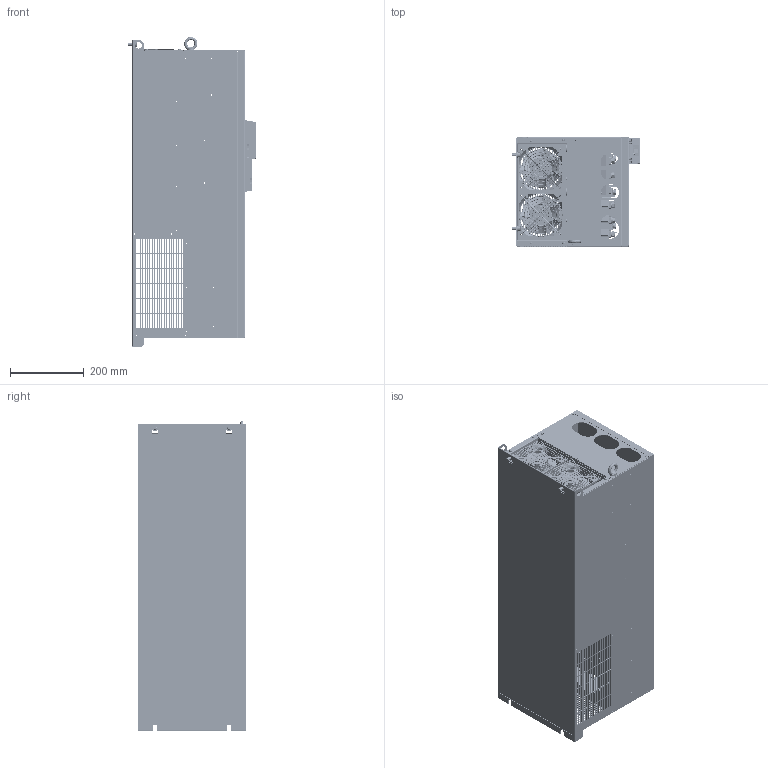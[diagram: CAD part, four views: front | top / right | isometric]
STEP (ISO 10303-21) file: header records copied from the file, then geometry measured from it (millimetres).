
FILE_DESCRIPTION (( 'STEP AP214' ), '1' );
FILE_NAME ('H120-90-132kw.STEP', '2023-06-19T10:43:52', ( '微软用户' ), ( '微软中国' ), 'SwSTEP 2.0', 'SolidWorks 2018', '' );
FILE_SCHEMA (( 'AUTOMOTIVE_DESIGN' ));
Length unit declared in the file: millimetre
Products named in the file (100): 藷裔爾璃2-0223-1; 电源驱动安装板组件-1; M4压铆螺母-0223-1_M4压铆螺母; 阨儒芛-耀撿-20190313-2019031920190328-0223-1; 輛盄諳-1; JNA360傷赽-1; 藷裔爾璃1-0223-1; 电源驱动安装板-1; 囀褲1-2019031920190328-0223-1_湮そ; 輛瑞啣-0223-1; H134-TP-10; 裔3-0223-1; JNA340傷赽-1; H120-90-132kw; 俋褲1-2019031920190328-0223-1; 假蚾啣-1; H134-TP-13; 裔1-0223-1; 132KW输入端子板-1; 0141-21xx-17pin-萇繚啣20190328-0223-1; M6X12腔蹟譫翐-1; H134-TP-21; M5x10蹟隊-0223-1; m8揤穩櫅譫; 按钮模具壳组件-模具-20190313-电路板20190328-0223-1; m4x12瓣謂揤穩蹟譫翐-0223-1; plain washer normal grade a_iso_Washer ISO 7089 - 8; M4X12的带弹垫盘头螺钉-0223-1; 输入端子板-132kw-0223-1; SPTB1-02-3.5-4-萇繚啣-2pin20190328-0223-1; m5揤穩櫅譫-1; socket head cap screw_iso_ISO 4762 M8 x 16 - 16N; m10x20蹟隊-0223-1; H134-TP-16蚾饜倎; GB9074_8-88_M3X6_ZI_1-耀撿-20190313-萇繚啣20190328-0223-1; m8揤穩櫅譫-1; 模具最新更改-卢工-2018031820190328-0223-1; m6x16蹟隊-0223-1; H134-TP-16; SPTB1-02-3.5-4-萇繚啣20190328-0223-1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
Assembly tree (211 placements, depth 5):
  H120-90-132kw
    眊极爾璃-0223-1
      翋眊极-1
        翋极啣-1
          M4压铆螺母-0223-1_M4压铆螺母  x10
          眊极01-0223-1
          崨盄鎢1-0223-1
        输入端子支持撑架-0223-1  x2
          输入端子支架1-0223-1
          M4压铆螺母_M4压铆螺母
        輛盄傷赽盓傅殤-0223-1  x2
          輛盄傷赽盓傅殤-0223-1
          M4压铆螺母_M4压铆螺母
        驱动板电源板安装片组件-1  x2
          驱动板安装板固定件-1
          M4压铆螺母_M4压铆螺母
      假蚾啣-1
        假蚾啣-0223-1
        m8揤穩櫅譫-1  x4
        m5揤穩櫅譫-1  x4
        m4x12瓣謂揤穩蹟譫翐-0223-1  x3
        M6X12腔蹟譫翐-1
        M4压铆螺母_M4压铆螺母  x12
      輛瑞啣-0223-1
      輛盄啣-1
        M4压铆螺母-0223-1_M4压铆螺母  x2
        輛盄諳-1
      結瑞え-0223-1
    瑞圮軞蚾饜极-0223-1
      瑞圮褲极-1
        M4压铆螺母-1_M4压铆螺母  x8
        m5揤穩櫅譫-0223-1  x3
        眊极02-0223-1
      瑞圮蚾饜极-0223-1  x2
        瑞圮120x120x38-0223-1
        瑞圮欶120x120x38-0223-1
    hcdz-80w20rj-tc-萇郯-0223-1
    m6x16蹟隊-0223-1  x8
    m10x20蹟隊-0223-1  x8
    M4X12的带弹垫盘头螺钉-0223-1  x8
    M5x10蹟隊-0223-1  x3
    裔赽蚾饜极-0223-1
      裔1-0223-1
      裔3-0223-1
      藷裔爾璃1-0223-1  x2
      藷裔爾璃2-0223-1  x2
      諷秶耀輸菜啣-1  x2
      笢潔階裔2 - 55-75kw-1
    模具最新更改-卢工-2018031820190328-0223-1
      ANNIUZUOKE_26-2018031820190328-0223-1
      JIANPANZUOGAI_4-2018031820190328-0223-1  x2
      按钮模具壳组件-模具-20190313-电路板20190328-0223-1
        PCB諷秶啣-20190318-萇繚啣20190328-0223-1
        諷秶啣2-20190318-萇繚啣20190328-0223-1
        控制板组件3-20190318-电路板20190328-0223-1  x2
        控制板组件4-20190318-电路板20190328-0223-1
        譫芛-20190318-萇繚啣20190328-0223-1
        DB芛-萇繚啣20190328-0223-1
        SPTB1-02-3.5-4-萇繚啣20190328-0223-1  x2
        GB9074_8-88_M3X6_ZI_1-耀撿-20190313-萇繚啣20190328-0223-1
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Bounding box: 349.2 x 295 x 841 mm (x, y, z)
Volume: 3687716.8 mm3; surface area: 3871943.4 mm2
Topology: 229 solids, 230 shells, 15050 faces, 39918 edges, 26124 vertices
Faces by surface type: plane 9983, cylinder 3382, bspline 982, cone 522, torus 130, sphere 51
Entity records: 370677 total; most frequent: CARTESIAN_POINT 107450, ORIENTED_EDGE 55382, DIRECTION 49342, EDGE_CURVE 27691, VECTOR 20368, LINE 20368, VERTEX_POINT 18167, AXIS2_PLACEMENT_3D 14487
